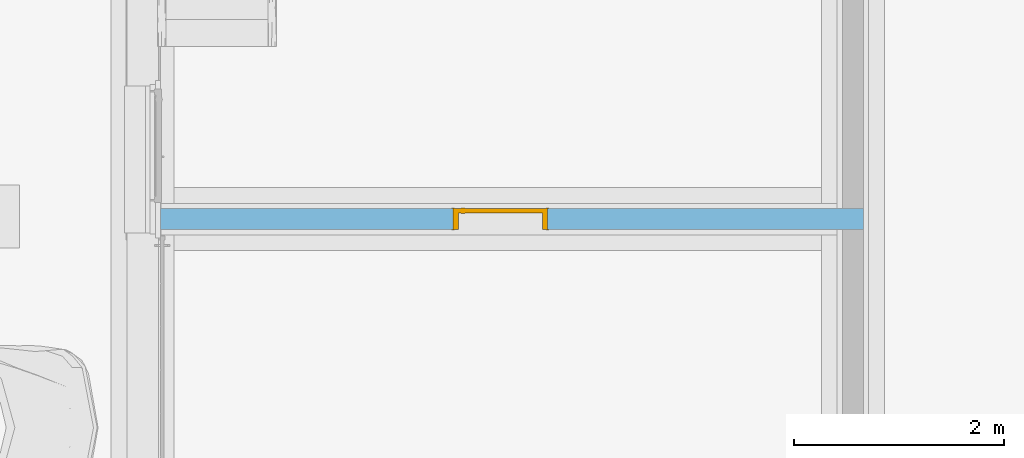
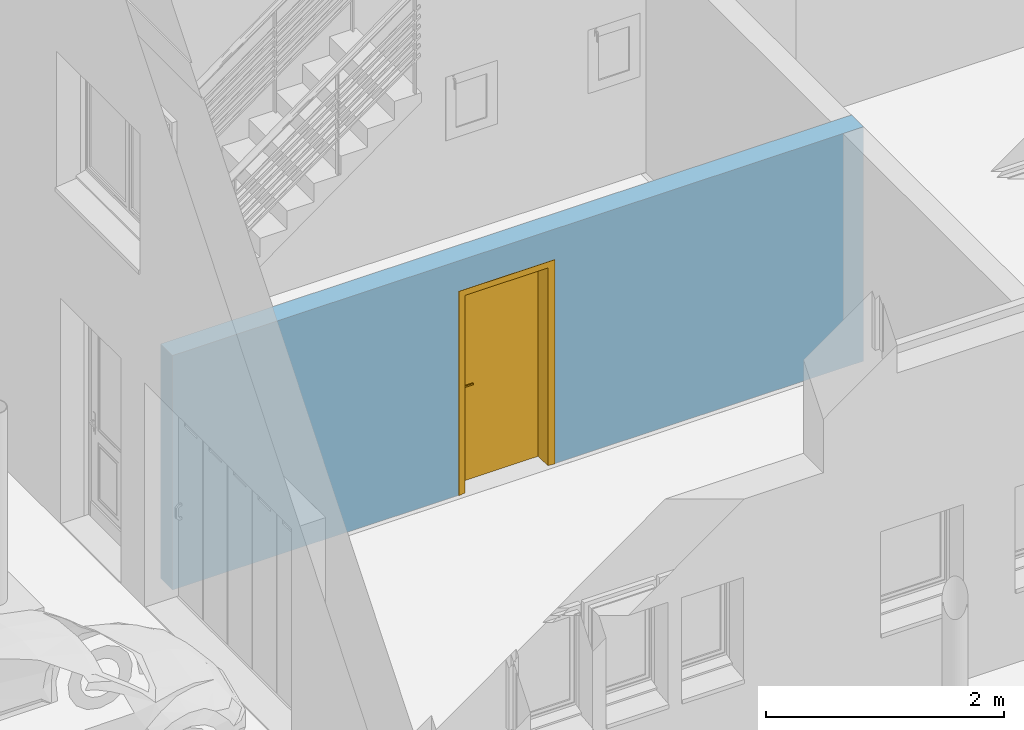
# One storey, part 11 of 20: 1 door, 1 opening, plus 1 element that does not belong to this part.
"""IFC2X3 building model written with IfcOpenShell, lengths in metres."""

from ifc_helpers import new_model, entity, si_unit, converted_unit, derived_unit, direction, frame, frame_2d, origin, place, context, subcontext, project, spatial, rectangle, extrude, faceted_brep, source, transform, mapped, material, material_list, layer, layer_set, layer_usage, type_object, type_shapes, element, fill, save


model = new_model("IFC2X3")

# Units and contexts
model_context = context("Model", 3, precision=1e-05, world=origin(), true_north=direction((6.12303176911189e-17, 1.0)))
body_context = subcontext(model_context, "Body", "Model", "MODEL_VIEW")
ifc_project = project(units=[si_unit("LENGTHUNIT", "METRE"), si_unit("AREAUNIT", "SQUARE_METRE"), si_unit("VOLUMEUNIT", "CUBIC_METRE"), converted_unit("PLANEANGLEUNIT", "DEGREE", entity("IfcRatioMeasure", 0.0174532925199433), si_unit("PLANEANGLEUNIT", "RADIAN"), dimensions=[0, 0, 0, 0, 0, 0, 0]), si_unit("MASSUNIT", "GRAM", prefix="KILO"), derived_unit("MASSDENSITYUNIT", [(si_unit("MASSUNIT", "GRAM", prefix="KILO"), 1), (si_unit("LENGTHUNIT", "METRE"), -3)]), derived_unit("MOMENTOFINERTIAUNIT", [(si_unit("LENGTHUNIT", "METRE"), 4)]), si_unit("TIMEUNIT", "SECOND"), si_unit("FREQUENCYUNIT", "HERTZ"), si_unit("THERMODYNAMICTEMPERATUREUNIT", "DEGREE_CELSIUS"), derived_unit("THERMALTRANSMITTANCEUNIT", [(si_unit("MASSUNIT", "GRAM", prefix="KILO"), 1), (si_unit("THERMODYNAMICTEMPERATUREUNIT", "KELVIN"), -1), (si_unit("TIMEUNIT", "SECOND"), -3)]), derived_unit("VOLUMETRICFLOWRATEUNIT", [(si_unit("LENGTHUNIT", "METRE"), 3), (si_unit("TIMEUNIT", "SECOND"), -1)]), si_unit("ELECTRICCURRENTUNIT", "AMPERE"), si_unit("ELECTRICVOLTAGEUNIT", "VOLT"), si_unit("POWERUNIT", "WATT"), si_unit("FORCEUNIT", "NEWTON", prefix="KILO"), si_unit("ILLUMINANCEUNIT", "LUX"), si_unit("LUMINOUSFLUXUNIT", "LUMEN"), si_unit("LUMINOUSINTENSITYUNIT", "CANDELA"), derived_unit("USERDEFINED", [(si_unit("MASSUNIT", "GRAM", prefix="KILO"), -1), (si_unit("LENGTHUNIT", "METRE"), -2), (si_unit("TIMEUNIT", "SECOND"), 3), (si_unit("LUMINOUSFLUXUNIT", "LUMEN"), 1)]), derived_unit("LINEARVELOCITYUNIT", [(si_unit("LENGTHUNIT", "METRE"), 1), (si_unit("TIMEUNIT", "SECOND"), -1)]), si_unit("PRESSUREUNIT", "PASCAL"), derived_unit("USERDEFINED", [(si_unit("LENGTHUNIT", "METRE"), -2), (si_unit("MASSUNIT", "GRAM", prefix="KILO"), 1), (si_unit("TIMEUNIT", "SECOND"), -2)]), derived_unit("LINEARFORCEUNIT", [(si_unit("MASSUNIT", "GRAM", prefix="KILO"), 1), (si_unit("LENGTHUNIT", "METRE"), 1), (si_unit("TIMEUNIT", "SECOND"), -2), (si_unit("LENGTHUNIT", "METRE"), -1)]), derived_unit("PLANARFORCEUNIT", [(si_unit("MASSUNIT", "GRAM", prefix="KILO"), 1), (si_unit("LENGTHUNIT", "METRE"), 1), (si_unit("TIMEUNIT", "SECOND"), -2), (si_unit("LENGTHUNIT", "METRE"), -2)])], contexts=[model_context])

# Site, building, storey
site_placement = place(None, origin())
site = spatial("IfcSite", under=ifc_project, at=site_placement, Name="Surface", CompositionType="ELEMENT")
building_placement = place(site_placement, origin())
building = spatial("IfcBuilding", under=site, at=building_placement, CompositionType="ELEMENT")
storey_placement = place(building_placement, origin())
storey = spatial("IfcBuildingStorey", under=building, at=storey_placement, Name="Niveau rdc", CompositionType="ELEMENT", Elevation=-1.94916083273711e-14)

# Wall, opening, door
ifc_material_1 = material(Name="Brique, commune")
ifc_layer = layer(ifc_material_1, 0.2)
ifc_layer_set = layer_set([ifc_layer], Name="Mur de base:Ext. Brique 22")
ifc_layer_usage = layer_usage(ifc_layer_set, "AXIS2", "NEGATIVE", 0.1)
wall_type = type_object("IfcWallType", Name="Mur de base:Ext. Brique 22", PredefinedType="STANDARD", material=ifc_layer_set)
wall_placement = place(storey_placement, frame((1.88439607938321, 3.80425810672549, 0.0)))
wall = element("IfcWallStandardCase", 1, at=wall_placement, inside=storey, type_object=wall_type, material=ifc_layer_usage, Name="Mur de base:Ext. Brique 22", ObjectType="Mur de base:Ext. Brique 22", context=body_context, shape_type="SweptSolid", body=[
    extrude(rectangle(XDim=6.6925730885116, YDim=0.2, at=frame_2d((3.3462865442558, -4.16333634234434e-17), x_axis=(-1.0, 0.0))), origin(), (0.0, 0.0, 1.0), 2.4),
])
opening_placement = place(wall_placement, frame((2.78500000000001, -0.100000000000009, 0.0)))
opening = element("IfcOpeningElement", 2, at=opening_placement, cuts=wall, Name="Int. Simple:PP (0.83m x 2.04m):1", ObjectType="Opening", context=body_context, shape_type="SweptSolid", body=[
    extrude(rectangle(XDim=2.075, YDim=0.9, at=frame_2d((1.0375, 0.45), x_axis=(1.0, 0.0))), frame((0.0, 0.0, 0.0), z_axis=(0.0, 1.0, 0.0), x_axis=(0.0, 0.0, 1.0)), (0.0, 0.0, 1.0), 0.2),
])
ifc_material_2 = material(Name="Finition Peinture - Blanc satiné")
ifc_material_3 = material(Name="Bois - Panneau de porte")
ifc_material_4 = material(Name="Bois - Cadre de porte")
ifc_material_list_1 = material_list([ifc_material_2, ifc_material_3, ifc_material_4])
ifc_material_list_2 = material_list([ifc_material_2, ifc_material_4, ifc_material_3])
door_style = type_object("IfcDoorStyle", Name="Int. Simple:PP (0.83m x 2.04m)", ConstructionType="NOTDEFINED", OperationType="NOTDEFINED", ParameterTakesPrecedence=False, Sizeable=False, material=ifc_material_list_2)
shared_shape = source(origin(), body_context, "Body", "Brep", [
    faceted_brep([(0.895000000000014, -0.00500000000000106, 0.870000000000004), (0.895000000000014, -0.00500000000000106, 1.08), (0.885352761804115, -0.00500000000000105, 1.08399601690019), (0.875000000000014, -0.00500000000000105, 1.08535898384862), (0.864647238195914, -0.00500000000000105, 1.08399601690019), (0.855000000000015, -0.00500000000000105, 1.08), (0.855000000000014, -0.00500000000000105, 0.870000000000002), (0.864647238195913, -0.00500000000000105, 0.866003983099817), (0.875000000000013, -0.00500000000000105, 0.86464101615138), (0.885352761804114, -0.00500000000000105, 0.866003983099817), (0.895000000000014, 0.0, 1.08), (0.895000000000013, 0.0, 0.870000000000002), (0.885352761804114, 0.0, 0.866003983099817), (0.875000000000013, 0.0, 0.86464101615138), (0.864647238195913, 0.0, 0.866003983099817), (0.855000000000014, 0.0, 0.870000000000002), (0.855000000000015, 0.0, 1.08), (0.864647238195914, 0.0, 1.08399601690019), (0.875000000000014, 0.0, 1.08535898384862), (0.885352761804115, 0.0, 1.08399601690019)], [[[0, 1, 2, 3, 4, 5, 6, 7, 8, 9]], [[10, 11, 12, 13, 14, 15, 16, 17, 18, 19]], [[9, 12, 11, 0]], [[8, 13, 12, 9]], [[7, 14, 13, 8]], [[7, 6, 15, 14]], [[15, 6, 5, 16]], [[4, 17, 16, 5]], [[3, 18, 17, 4]], [[2, 19, 18, 3]], [[2, 1, 10, 19]], [[11, 10, 1, 0]]]),
    faceted_brep([(0.895000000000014, 0.0399999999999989, 0.870000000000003), (0.895000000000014, 0.0399999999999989, 1.08), (0.885352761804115, 0.0399999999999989, 1.08399601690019), (0.875000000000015, 0.0399999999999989, 1.08535898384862), (0.864647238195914, 0.0399999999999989, 1.08399601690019), (0.855000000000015, 0.0399999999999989, 1.08), (0.855000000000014, 0.0399999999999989, 0.870000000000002), (0.864647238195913, 0.0399999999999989, 0.866003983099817), (0.875000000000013, 0.0399999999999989, 0.86464101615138), (0.885352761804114, 0.0399999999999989, 0.866003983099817), (0.875000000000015, 0.0449999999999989, 1.08535898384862), (0.885352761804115, 0.0449999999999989, 1.08399601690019), (0.895000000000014, 0.0449999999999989, 1.08), (0.895000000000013, 0.0449999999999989, 0.870000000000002), (0.885352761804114, 0.0449999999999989, 0.866003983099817), (0.875000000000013, 0.0449999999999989, 0.86464101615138), (0.864647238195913, 0.0449999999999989, 0.866003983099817), (0.855000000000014, 0.0449999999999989, 0.870000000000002), (0.855000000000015, 0.0449999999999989, 1.08), (0.864647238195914, 0.0449999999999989, 1.08399601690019)], [[[0, 1, 2, 3, 4, 5, 6, 7, 8, 9]], [[10, 11, 12, 13, 14, 15, 16, 17, 18, 19]], [[4, 19, 18, 5]], [[3, 10, 19, 4]], [[2, 11, 10, 3]], [[2, 1, 12, 11]], [[13, 12, 1, 0]], [[9, 14, 13, 0]], [[8, 15, 14, 9]], [[7, 16, 15, 8]], [[7, 6, 17, 16]], [[17, 6, 5, 18]]]),
    faceted_brep([(0.872974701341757, -0.00500000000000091, 1.00778044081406), (0.877025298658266, -0.00500000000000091, 1.00778044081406), (0.881000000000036, -0.00500000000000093, 1.00699999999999), (0.881000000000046, -0.00500000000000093, 0.992999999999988), (0.877025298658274, -0.00500000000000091, 0.99221955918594), (0.872974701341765, -0.00500000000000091, 0.992219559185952), (0.868999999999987, -0.00500000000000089, 0.993000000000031), (0.868999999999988, -0.00500000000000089, 1.007), (0.877025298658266, -0.0310045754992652, 1.00778044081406), (0.881000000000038, -0.0326509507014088, 1.007), (0.872974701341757, -0.0293267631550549, 1.00778044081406), (0.859298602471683, -0.0430028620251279, 1.00778044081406), (0.860976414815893, -0.0470534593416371, 1.00778044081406), (0.868999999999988, -0.0276803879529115, 1.007), (0.868999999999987, -0.0276803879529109, 0.993000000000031), (0.872974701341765, -0.0293267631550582, 0.992219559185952), (0.877025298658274, -0.0310045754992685, 0.99221955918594), (0.860976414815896, -0.0470534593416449, 0.99221955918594), (0.859298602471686, -0.0430028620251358, 0.992219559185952), (0.881000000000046, -0.0326509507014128, 0.992999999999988), (0.862622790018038, -0.051028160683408, 1.007), (0.85765222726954, -0.0390281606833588, 1.007), (0.857652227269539, -0.0390281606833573, 0.993000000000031), (0.862622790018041, -0.0510281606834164, 0.992999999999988), (0.774981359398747, -0.0510281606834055, 1.007), (0.774981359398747, -0.0470534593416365, 1.00778044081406), (0.774981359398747, -0.0430028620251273, 1.00778044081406), (0.774981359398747, -0.0390281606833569, 1.00699999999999), (0.774981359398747, -0.0390281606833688, 0.993000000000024), (0.774981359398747, -0.0430028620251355, 0.992219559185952), (0.774981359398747, -0.0470534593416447, 0.99221955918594), (0.774981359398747, -0.0510281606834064, 0.992999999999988), (0.81713998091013, -0.045028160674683, 1.0078786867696), (0.822692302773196, -0.051028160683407, 1.007), (0.816316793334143, -0.039028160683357, 1.007), (0.816316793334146, -0.0390281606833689, 0.993000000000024), (0.817139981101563, -0.0450281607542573, 0.992121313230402), (0.822692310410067, -0.0510281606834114, 0.992999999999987)], [[[0, 1, 2, 3, 4, 5, 6, 7]], [[2, 1, 8, 9]], [[1, 0, 10, 11, 12, 8]], [[0, 7, 13, 10]], [[14, 13, 7, 6]], [[5, 15, 14, 6]], [[5, 4, 16, 17, 18, 15]], [[3, 19, 16, 4]], [[9, 19, 3, 2]], [[9, 8, 12, 20]], [[10, 13, 21, 11]], [[22, 21, 13, 14]], [[14, 15, 18, 22]], [[16, 19, 23, 17]], [[20, 23, 19, 9]], [[24, 25, 26, 27, 28, 29, 30, 31]], [[32, 25, 33]], [[33, 25, 24]], [[33, 20, 12]], [[11, 34, 32]], [[34, 11, 21]], [[27, 26, 34]], [[32, 26, 25]], [[32, 34, 26]], [[32, 33, 12]], [[11, 32, 12]], [[21, 22, 35, 28, 27, 34]], [[36, 29, 35]], [[30, 36, 37]], [[18, 35, 22]], [[29, 28, 35]], [[30, 37, 31]], [[37, 17, 23]], [[36, 17, 37]], [[36, 18, 17]], [[36, 35, 18]], [[29, 36, 30]], [[23, 20, 33, 24, 31, 37]]]),
    faceted_brep([(0.872974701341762, 0.0449999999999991, 0.992219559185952), (0.877025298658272, 0.0449999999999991, 0.99221955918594), (0.881000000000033, 0.044999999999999, 0.992999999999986), (0.881000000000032, 0.044999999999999, 1.007), (0.877025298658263, 0.0449999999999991, 1.00778044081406), (0.872974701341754, 0.0449999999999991, 1.00778044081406), (0.868999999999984, 0.0449999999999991, 1.007), (0.868999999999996, 0.0449999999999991, 0.993000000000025), (0.868999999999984, 0.067485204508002, 1.007), (0.868999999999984, 0.0674852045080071, 0.993000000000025), (0.872974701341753, 0.0691315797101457, 1.00778044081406), (0.877025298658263, 0.070809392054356, 1.00778044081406), (0.860838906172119, 0.0869957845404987, 1.00778044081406), (0.859161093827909, 0.0829451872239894, 1.00778044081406), (0.881000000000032, 0.0724557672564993, 1.007), (0.881000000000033, 0.0724557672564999, 0.992999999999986), (0.877025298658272, 0.0708093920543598, 0.99221955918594), (0.872974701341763, 0.0691315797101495, 0.992219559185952), (0.859161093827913, 0.0829451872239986, 0.992219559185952), (0.860838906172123, 0.0869957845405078, 0.99221955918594), (0.857514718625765, 0.0789704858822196, 1.007), (0.857514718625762, 0.0789704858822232, 0.993000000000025), (0.862485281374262, 0.0909704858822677, 1.007), (0.862485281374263, 0.0909704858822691, 0.992999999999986), (0.77495421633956, 0.0829451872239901, 1.00778044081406), (0.77495421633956, 0.0869957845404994, 1.00778044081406), (0.77495421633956, 0.0909704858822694, 1.007), (0.77495421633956, 0.0909704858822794, 0.992999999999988), (0.77495421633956, 0.086995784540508, 0.99221955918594), (0.77495421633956, 0.0829451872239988, 0.992219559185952), (0.77495421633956, 0.0789704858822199, 0.993000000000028), (0.77495421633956, 0.0789704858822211, 1.007), (0.816234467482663, 0.0789704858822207, 1.007), (0.816234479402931, 0.0789704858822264, 0.993000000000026), (0.817057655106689, 0.0849704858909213, 1.0078786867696), (0.822554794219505, 0.0909704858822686, 1.007), (0.822554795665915, 0.0909704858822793, 0.992999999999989), (0.817057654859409, 0.0849704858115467, 0.992121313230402)], [[[0, 1, 2, 3, 4, 5, 6, 7]], [[8, 9, 7, 6]], [[5, 10, 8, 6]], [[5, 4, 11, 12, 13, 10]], [[3, 14, 11, 4]], [[14, 3, 2, 15]], [[2, 1, 16, 15]], [[1, 0, 17, 18, 19, 16]], [[0, 7, 9, 17]], [[20, 21, 9, 8]], [[8, 10, 13, 20]], [[14, 22, 12, 11]], [[23, 22, 14, 15]], [[15, 16, 19, 23]], [[17, 9, 21, 18]], [[24, 25, 26, 27, 28, 29, 30, 31]], [[21, 20, 32, 31, 30, 33]], [[34, 24, 32]], [[25, 34, 35]], [[13, 32, 20]], [[24, 31, 32]], [[25, 35, 26]], [[35, 12, 22]], [[34, 12, 35]], [[34, 13, 12]], [[34, 32, 13]], [[24, 34, 25]], [[22, 23, 36, 27, 26, 35]], [[37, 28, 36]], [[36, 28, 27]], [[36, 23, 19]], [[18, 33, 37]], [[33, 18, 21]], [[30, 29, 33]], [[37, 29, 28]], [[37, 33, 29]], [[37, 36, 19]], [[18, 37, 19]]]),
    faceted_brep([(0.935000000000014, 0.04, 2.04), (0.935000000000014, 0.04, 0.0), (0.105000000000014, 0.04, 0.0), (0.105000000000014, 0.04, 2.04), (0.935000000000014, 0.0, 2.04), (0.105000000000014, 0.0, 2.04), (0.105000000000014, 0.0, 0.0), (0.935000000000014, 0.0, 0.0)], [[[0, 1, 2, 3]], [[4, 5, 6, 7]], [[3, 5, 4, 0]], [[2, 6, 5, 3]], [[1, 7, 6, 2]], [[0, 4, 7, 1]]]),
    faceted_brep([(0.970000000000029, 0.0, 0.0), (0.935000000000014, 0.0, 0.0), (0.935000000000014, 0.040000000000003, 0.0), (0.920000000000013, 0.040000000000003, 0.0), (0.920000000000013, 0.200000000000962, 0.0), (0.970000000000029, 0.200000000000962, 0.0), (0.970000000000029, 0.200000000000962, 2.07500000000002), (0.970000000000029, 0.0, 2.07500000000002), (0.920000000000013, 0.200000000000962, 2.025), (0.120000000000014, 0.200000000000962, 2.025), (0.120000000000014, 0.200000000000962, 0.0), (0.0699999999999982, 0.200000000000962, 0.0), (0.0699999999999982, 0.200000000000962, 2.07500000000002), (0.920000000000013, 0.040000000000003, 2.025), (0.935000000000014, 0.040000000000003, 2.04), (0.105000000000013, 0.040000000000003, 2.04), (0.105000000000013, 0.040000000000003, 0.0), (0.120000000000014, 0.040000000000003, 0.0), (0.120000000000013, 0.040000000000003, 2.025), (0.935000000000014, 0.0, 2.04), (0.0699999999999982, 0.0, 2.07500000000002), (0.0699999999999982, 0.0, 0.0), (0.105000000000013, 0.0, 0.0), (0.105000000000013, 0.0, 2.04)], [[[0, 1, 2, 3, 4, 5]], [[5, 6, 7, 0]], [[4, 8, 9, 10, 11, 12, 6, 5]], [[3, 13, 8, 4]], [[2, 14, 15, 16, 17, 18, 13, 3]], [[1, 19, 14, 2]], [[0, 7, 20, 21, 22, 23, 19, 1]], [[12, 11, 21, 20]], [[21, 11, 10, 17, 16, 22]], [[18, 17, 10, 9]], [[23, 22, 16, 15]], [[6, 12, 20, 7]], [[13, 18, 9, 8]], [[19, 23, 15, 14]]]),
    faceted_brep([(0.955000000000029, 0.200000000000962, 0.0), (0.955000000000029, 0.205000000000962, 0.0), (0.985000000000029, 0.205000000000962, 0.0), (0.985000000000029, 0.200000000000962, 0.0), (0.985000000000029, 0.200000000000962, 2.09000000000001), (0.0550000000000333, 0.200000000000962, 2.09000000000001), (0.0550000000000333, 0.200000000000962, 0.0), (0.0850000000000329, 0.200000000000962, 0.0), (0.0850000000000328, 0.200000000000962, 2.06000000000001), (0.955000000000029, 0.200000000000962, 2.06000000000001), (0.985000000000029, 0.205000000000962, 2.09000000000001), (0.955000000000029, 0.205000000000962, 2.06000000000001), (0.0850000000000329, 0.205000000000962, 2.06000000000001), (0.0850000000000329, 0.205000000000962, 0.0), (0.055000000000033, 0.205000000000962, 0.0), (0.0550000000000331, 0.205000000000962, 2.09000000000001)], [[[0, 1, 2, 3]], [[3, 4, 5, 6, 7, 8, 9, 0]], [[2, 10, 4, 3]], [[1, 11, 12, 13, 14, 15, 10, 2]], [[0, 9, 11, 1]], [[7, 6, 14, 13]], [[8, 7, 13, 12]], [[15, 14, 6, 5]], [[10, 15, 5, 4]], [[9, 8, 12, 11]]]),
    faceted_brep([(0.985000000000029, -0.00500000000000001, 0.0), (0.985000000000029, -0.00500000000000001, 2.09000000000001), (0.0550000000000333, -0.00500000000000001, 2.09000000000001), (0.0550000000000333, -0.00500000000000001, 0.0), (0.0850000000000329, -0.00500000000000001, 0.0), (0.0850000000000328, -0.00500000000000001, 2.06000000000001), (0.955000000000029, -0.00500000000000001, 2.06000000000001), (0.955000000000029, -0.00500000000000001, 0.0), (0.985000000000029, 0.0, 0.0), (0.985000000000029, 0.0, 2.09000000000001), (0.955000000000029, 0.0, 0.0), (0.955000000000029, 0.0, 2.06000000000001), (0.0850000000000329, 0.0, 2.06000000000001), (0.0850000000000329, 0.0, 0.0), (0.055000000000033, 0.0, 0.0), (0.0550000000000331, 0.0, 2.09000000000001)], [[[0, 1, 2, 3, 4, 5, 6, 7]], [[8, 9, 1, 0]], [[10, 11, 12, 13, 14, 15, 9, 8]], [[7, 6, 11, 10]], [[5, 4, 13, 12]], [[15, 14, 3, 2]], [[9, 15, 2, 1]], [[6, 5, 12, 11]], [[4, 3, 14, 13]], [[7, 10, 8, 0]]]),
])
type_shapes(door_style, [shared_shape])
door_placement = place(opening_placement, frame((0.970000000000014, 0.199999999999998, 0.0), z_axis=(0.0, 0.0, 1.0), x_axis=(-1.0, 0.0, 0.0)))
door = element("IfcDoor", 3, at=door_placement, inside=storey, type_object=door_style, material=ifc_material_list_1, Name="Int. Simple:PP (0.83m x 2.04m)", ObjectType="Int. Simple:PP (0.83m x 2.04m)", OverallHeight=2.075, OverallWidth=0.900000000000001, context=body_context, shape_type="MappedRepresentation", body=[
    mapped(shared_shape, transform((0.0, 0.0, 0.0), scale=1.0)),
])
fill(opening, door)

save(model, "model.ifc")
